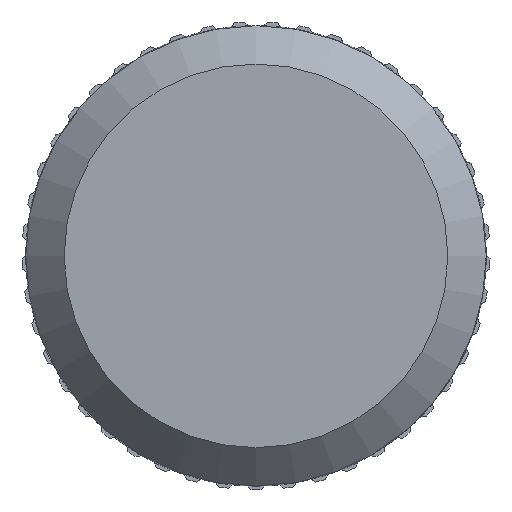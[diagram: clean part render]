
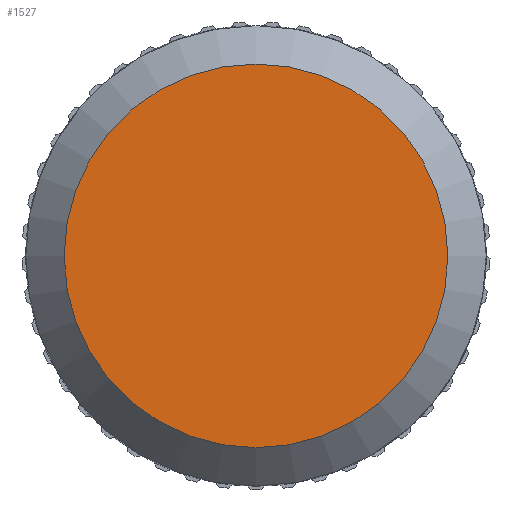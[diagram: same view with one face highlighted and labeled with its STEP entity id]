
A CAD part, left-side view. The second image highlights one B-rep face of the part: STEP entity #1527.
In plain terms, the highlighted planar face has unit normal (-1, 0, 0).
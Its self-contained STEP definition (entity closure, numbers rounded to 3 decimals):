
#1385 = VERTEX_POINT ( 'NONE', #6139 ) ;
#1476 = CARTESIAN_POINT ( 'NONE',  ( -30., 3.05, 0. ) ) ;
#1484 = PLANE ( 'NONE',  #2372 ) ;
#1527 = ADVANCED_FACE ( 'NONE', ( #6484 ), #1484, .T. ) ;
#2372 = AXIS2_PLACEMENT_3D ( 'NONE', #4250, #4813, #3756 ) ;
#3041 = AXIS2_PLACEMENT_3D ( 'NONE', #1476, #6857, #5261 ) ;
#3756 = DIRECTION ( 'NONE',  ( 0., 0., 1. ) ) ;
#4054 = CIRCLE ( 'NONE', #3041, 2.5 ) ;
#4250 = CARTESIAN_POINT ( 'NONE',  ( -30., 0.05, 0. ) ) ;
#4795 = EDGE_CURVE ( 'NONE', #1385, #1385, #4054, .T. ) ;
#4813 = DIRECTION ( 'NONE',  ( -1., 0., 0. ) ) ;
#5134 = ORIENTED_EDGE ( 'NONE', *, *, #4795, .T. ) ;
#5261 = DIRECTION ( 'NONE',  ( 0., 0., 1. ) ) ;
#5513 = EDGE_LOOP ( 'NONE', ( #5134 ) ) ;
#6139 = CARTESIAN_POINT ( 'NONE',  ( -30., 3.05, 2.5 ) ) ;
#6484 = FACE_OUTER_BOUND ( 'NONE', #5513, .T. ) ;
#6857 = DIRECTION ( 'NONE',  ( -1., 0., 0. ) ) ;
